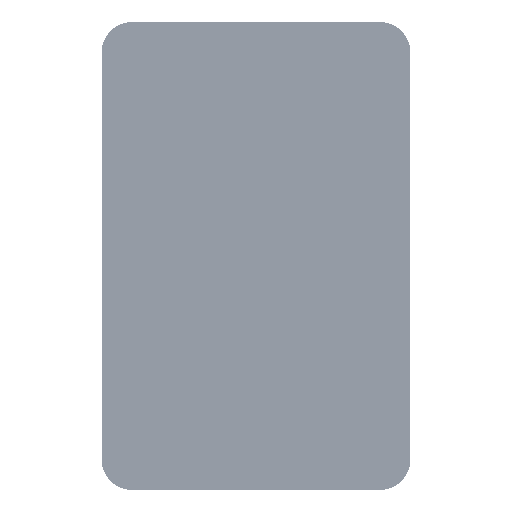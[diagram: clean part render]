
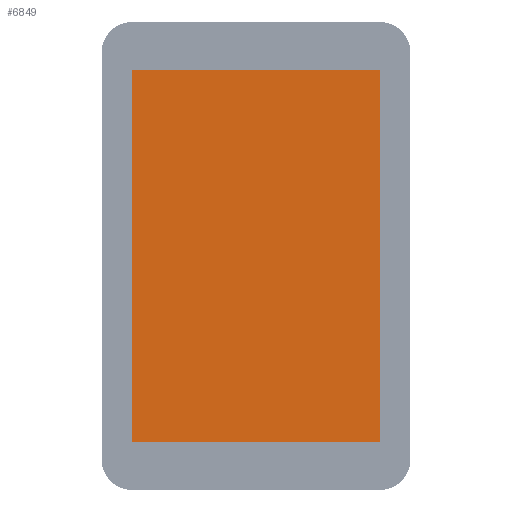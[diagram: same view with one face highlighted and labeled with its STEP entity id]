
A CAD part, top view. The second image highlights one B-rep face of the part: STEP entity #6849.
In plain terms, the highlighted planar face has unit normal (0, 0, 1).
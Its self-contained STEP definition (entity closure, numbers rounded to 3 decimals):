
#5284=DIRECTION('',(1.,0.,0.));
#5285=VECTOR('',#5284,48.96);
#5286=CARTESIAN_POINT('',(-24.48,36.72,1.05));
#5287=LINE('',#5286,#5285);
#5298=DIRECTION('',(0.,-1.,0.));
#5299=VECTOR('',#5298,73.44);
#5300=CARTESIAN_POINT('',(24.48,36.72,1.05));
#5301=LINE('',#5300,#5299);
#5312=DIRECTION('',(-1.,0.,0.));
#5313=VECTOR('',#5312,48.96);
#5314=CARTESIAN_POINT('',(24.48,-36.72,1.05));
#5315=LINE('',#5314,#5313);
#5326=DIRECTION('',(0.,1.,0.));
#5327=VECTOR('',#5326,73.44);
#5328=CARTESIAN_POINT('',(-24.48,-36.72,1.05));
#5329=LINE('',#5328,#5327);
#6416=CARTESIAN_POINT('',(-24.48,36.72,1.05));
#6417=CARTESIAN_POINT('',(24.48,36.72,1.05));
#6418=VERTEX_POINT('',#6416);
#6419=VERTEX_POINT('',#6417);
#6420=CARTESIAN_POINT('',(24.48,-36.72,1.05));
#6421=VERTEX_POINT('',#6420);
#6422=CARTESIAN_POINT('',(-24.48,-36.72,1.05));
#6423=VERTEX_POINT('',#6422);
#6835=CARTESIAN_POINT('',(0.,0.,1.05));
#6836=DIRECTION('',(0.,0.,1.));
#6837=DIRECTION('',(1.,0.,0.));
#6838=AXIS2_PLACEMENT_3D('',#6835,#6836,#6837);
#6839=PLANE('',#6838);
#6840=ORIENTED_EDGE('',*,*,#6825,.T.);
#6842=ORIENTED_EDGE('',*,*,#6841,.T.);
#6844=ORIENTED_EDGE('',*,*,#6843,.T.);
#6846=ORIENTED_EDGE('',*,*,#6845,.T.);
#6847=EDGE_LOOP('',(#6840,#6842,#6844,#6846));
#6848=FACE_OUTER_BOUND('',#6847,.F.);
#6849=ADVANCED_FACE('',(#6848),#6839,.T.);
#6825=EDGE_CURVE('',#6418,#6419,#5287,.T.);
#6841=EDGE_CURVE('',#6419,#6421,#5301,.T.);
#6843=EDGE_CURVE('',#6421,#6423,#5315,.T.);
#6845=EDGE_CURVE('',#6423,#6418,#5329,.T.);
